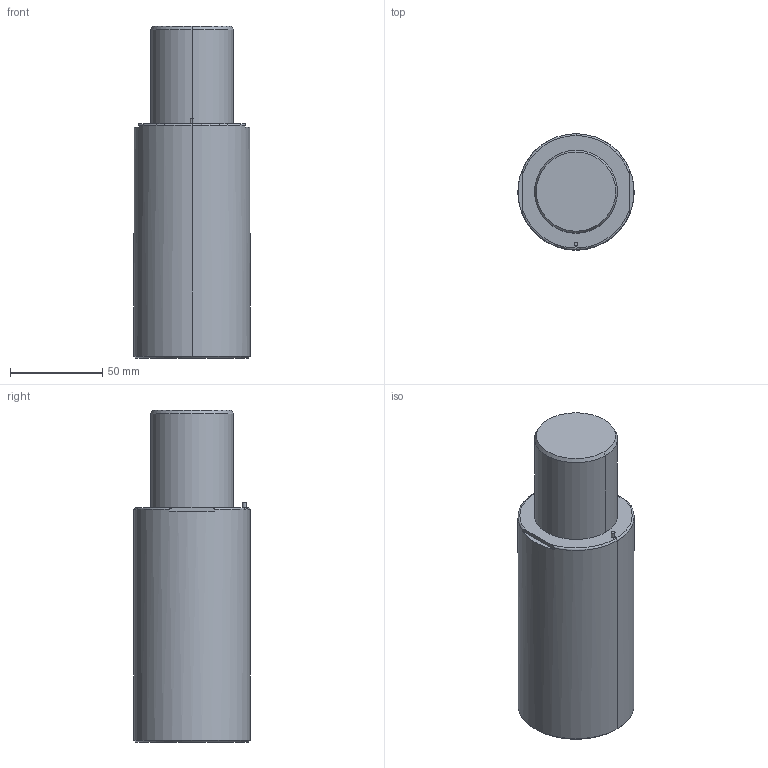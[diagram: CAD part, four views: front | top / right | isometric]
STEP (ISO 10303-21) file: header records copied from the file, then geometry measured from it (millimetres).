
FILE_DESCRIPTION(/* description */ (''),/* implementation_level */ '2;1');
FILE_NAME(/* name */ '3d_gsx63-50_03988_r00.stp',/* time_stamp */ '2011-01-10T14:15:11+09:00',/* author */ ('MISUMI'),/* organization */ (''),/* preprocessor_version */ 'ST-DEVELOPER v11',/* originating_system */ 'UGS - NX 5.0',/* authorisation */ '');
FILE_SCHEMA (('CONFIG_CONTROL_DESIGN'));
Length unit declared in the file: millimetre
Products named in the file (1): 3d_gsx63-50_03988_r00
Bounding box: 63 x 63 x 180 mm (x, y, z)
Volume: 476468.5 mm3; surface area: 40271.2 mm2
Topology: 1 solids, 1 shells, 59 faces, 130 edges, 78 vertices
Faces by surface type: cylinder 28, plane 15, cone 12, torus 4
Entity records: 1692 total; most frequent: DIRECTION 308, CARTESIAN_POINT 288, ORIENTED_EDGE 244, AXIS2_PLACEMENT_3D 130, EDGE_CURVE 122, VERTEX_POINT 78, EDGE_LOOP 72, CIRCLE 70
